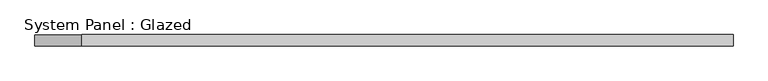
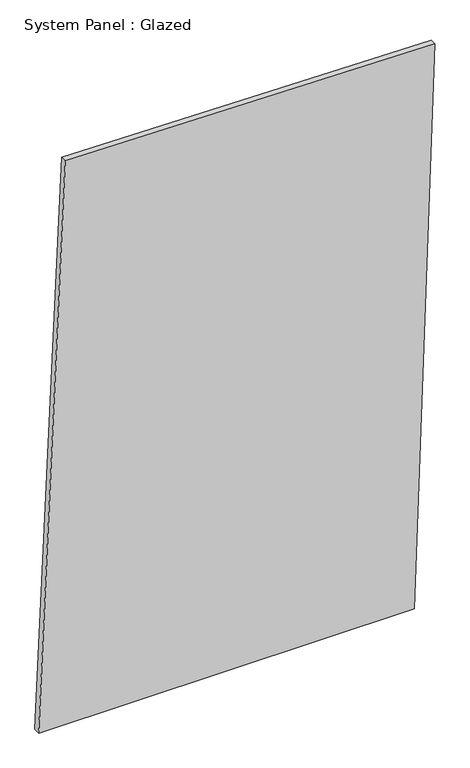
"""IFC4 building model written with IfcOpenShell, lengths in millimetres: plate geometry, System Panel : Glazed."""

from ifc_helpers import new_model, si_unit, frame, origin, place, context, project, spatial, polyline, outline, extrude, source, transform, mapped, element, save


def system_panel_glazed_028a0f7a(model_context):
    return source(origin(), model_context, "Body", "SweptSolid", [
        extrude(outline(polyline([(0.0, -779.1412526), (0.0, 698.0902342), (2320.0116253, 779.1412526), (2341.9554857, -674.3779255), (0.0, -779.1412526)])), frame((0.0, -49.5, 0.0), z_axis=(0.0, 1.0, 0.0), x_axis=(0.0, 0.0, 1.0)), (0.0, 0.0, 1.0), 25.0),
    ])


if __name__ == "__main__":
    model = new_model("IFC4")
    model_context = context("Model", 3, world=origin())
    ifc_project = project(units=[si_unit("LENGTHUNIT", "METRE", prefix="MILLI")], contexts=[model_context])
    site = spatial("IfcSite", under=ifc_project)
    building = spatial("IfcBuilding", under=site)
    placement = place(None, origin())
    system_panel_glazed_shape = system_panel_glazed_028a0f7a(model_context)
    element("IfcPlate", 1, ObjectType="System Panel : Glazed", at=placement, inside=building, context=model_context, shape_type="MappedRepresentation", body=[
        mapped(system_panel_glazed_shape, transform((0.0, 0.0, 0.0), x_axis=(1.0, 0.0, 0.0), y_axis=(0.0, 1.0, 0.0), z_axis=(0.0, 0.0, 1.0))),
    ])
    save(model, "model.ifc")
